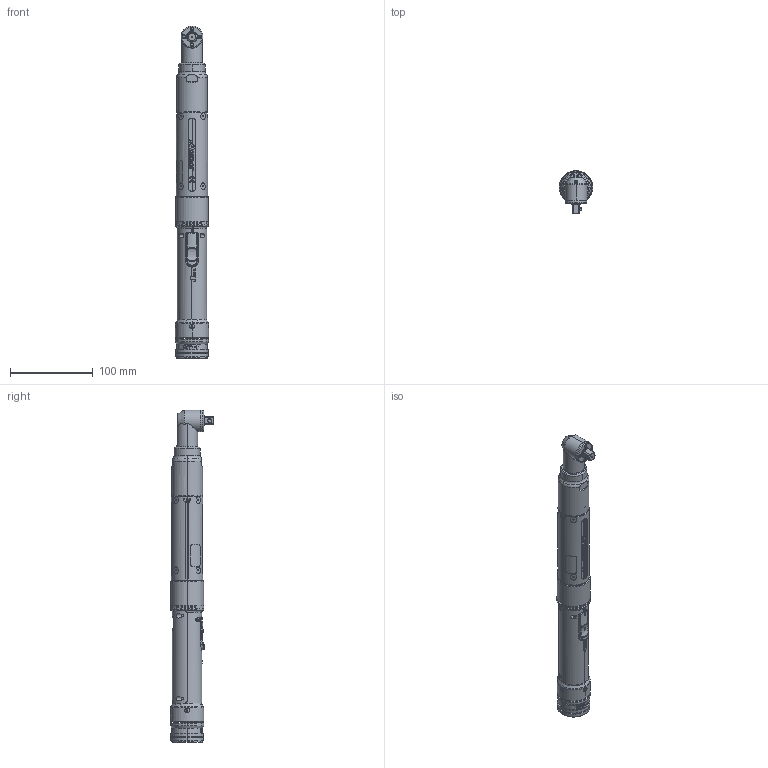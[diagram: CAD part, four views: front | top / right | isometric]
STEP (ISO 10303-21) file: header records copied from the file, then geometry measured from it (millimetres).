
FILE_DESCRIPTION (( 'STEP AP214' ), '1' );
FILE_NAME ('AEN4C22014C.STEP', '2022-07-29T23:53:08', ( '' ), ( '' ), 'SwSTEP 2.0', 'SolidWorks 2022', '' );
FILE_SCHEMA (( 'AUTOMOTIVE_DESIGN' ));
Length unit declared in the file: inch
Products named in the file (1): AEN4C22014C
Bounding box: 40.64 x 52.38 x 402.45 mm (x, y, z)
Surface area: 74804.3 mm2 (no closed solid volume)
Topology: 0 solids, 105 shells, 1004 faces, 3212 edges, 2267 vertices
Faces by surface type: plane 326, cylinder 263, bspline 182, torus 129, cone 88, sphere 16
Entity records: 57849 total; most frequent: CARTESIAN_POINT 18358, DIRECTION 5112, ORIENTED_EDGE 5022, EDGE_CURVE 3206, VERTEX_POINT 2267, AXIS2_PLACEMENT_3D 1836, VECTOR 1440, LINE 1440
